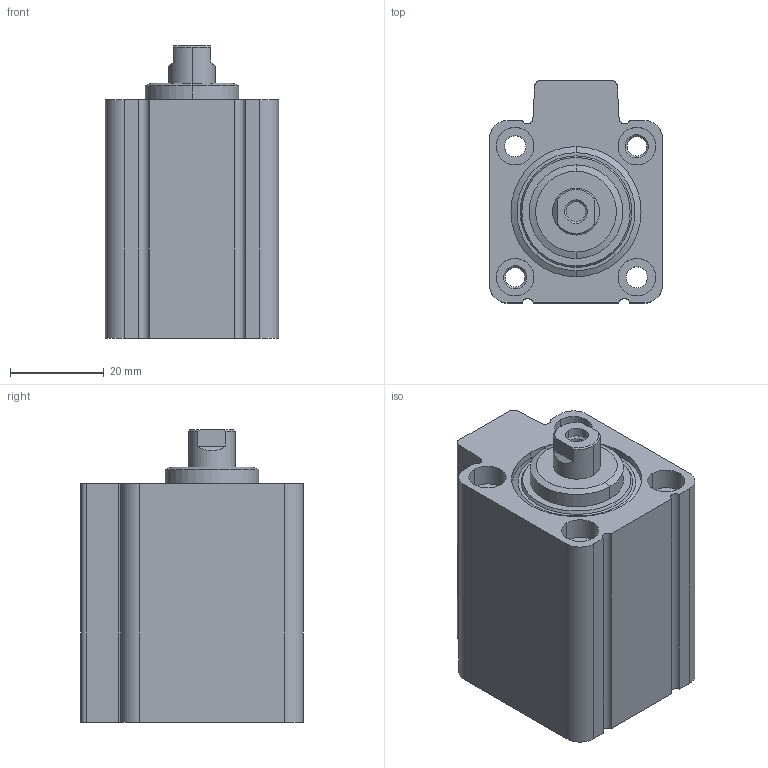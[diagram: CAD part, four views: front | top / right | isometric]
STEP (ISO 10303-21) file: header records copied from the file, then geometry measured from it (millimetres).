
FILE_DESCRIPTION((''),'2;1');
FILE_NAME('0822010533_ASM','2015-07-01T',('vol1hc'),(''),'PRO/ENGINEER BY PARAMETRIC TECHNOLOGY CORPORATION, 2012421','PRO/ENGINEER BY PARAMETRIC TECHNOLOGY CORPORATION, 2012421','');
FILE_SCHEMA(('CONFIG_CONTROL_DESIGN','SHAPE_APPEARANCE_LAYERS_GROUPS'));
Length unit declared in the file: millimetre
Products named in the file (3): 0822010533-A; 0822010533-B; 0822010533_ASM
Assembly tree (2 placements, depth 2):
  0822010533_ASM
    0822010533-A
    0822010533-B
Bounding box: 37 x 47.5 x 62.5 mm (x, y, z)
Volume: 67416.1 mm3; surface area: 23936.3 mm2
Topology: 2 solids, 2 shells, 137 faces, 302 edges, 192 vertices
Faces by surface type: cylinder 62, plane 41, cone 30, torus 4
Entity records: 3970 total; most frequent: DIRECTION 748, CARTESIAN_POINT 674, ORIENTED_EDGE 604, AXIS2_PLACEMENT_3D 310, EDGE_CURVE 302, VERTEX_POINT 192, EDGE_LOOP 168, CIRCLE 168
